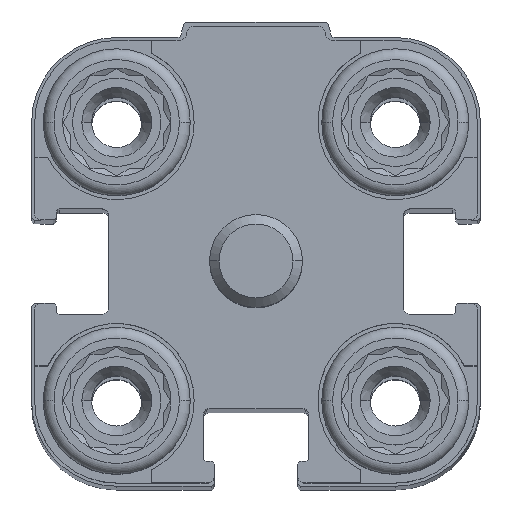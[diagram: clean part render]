
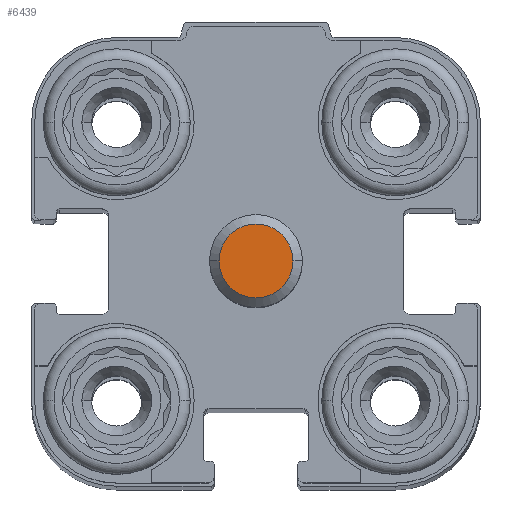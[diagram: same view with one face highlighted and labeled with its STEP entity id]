
A CAD part, top view. The second image highlights one B-rep face of the part: STEP entity #6439.
In plain terms, the highlighted planar face has unit normal (0, 0, 1).
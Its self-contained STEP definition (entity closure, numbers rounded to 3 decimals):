
#1631 = CARTESIAN_POINT ( 'NONE',  ( 0., 0., 20.5 ) ) ;
#1724 = DIRECTION ( 'NONE',  ( -1., 0., 0. ) ) ;
#1869 = AXIS2_PLACEMENT_3D ( 'NONE', #2050, #13002, #4146 ) ;
#2050 = CARTESIAN_POINT ( 'NONE',  ( 0., 0., 20.5 ) ) ;
#2973 = DIRECTION ( 'NONE',  ( 0., 0., -1. ) ) ;
#3640 = DIRECTION ( 'NONE',  ( 0., 0., -1. ) ) ;
#4146 = DIRECTION ( 'NONE',  ( 0., 1., 0. ) ) ;
#4384 = CARTESIAN_POINT ( 'NONE',  ( -2.387, 0., 20.5 ) ) ;
#4546 = ORIENTED_EDGE ( 'NONE', *, *, #8602, .F. ) ;
#4973 = CARTESIAN_POINT ( 'NONE',  ( 2.387, 0., 20.5 ) ) ;
#5176 = VERTEX_POINT ( 'NONE', #4384 ) ;
#5668 = PLANE ( 'NONE',  #1869 ) ;
#6439 = ADVANCED_FACE ( 'NONE', ( #10230 ), #5668, .F. ) ;
#6823 = AXIS2_PLACEMENT_3D ( 'NONE', #1631, #2973, #1724 ) ;
#8047 = EDGE_CURVE ( 'NONE', #5176, #13988, #12258, .T. ) ;
#8602 = EDGE_CURVE ( 'NONE', #13988, #5176, #11434, .T. ) ;
#10230 = FACE_OUTER_BOUND ( 'NONE', #15754, .T. ) ;
#10473 = CARTESIAN_POINT ( 'NONE',  ( 0., 0., 20.5 ) ) ;
#11124 = AXIS2_PLACEMENT_3D ( 'NONE', #10473, #3640, #11996 ) ;
#11434 = CIRCLE ( 'NONE', #11124, 2.387 ) ;
#11996 = DIRECTION ( 'NONE',  ( -1., 0., 0. ) ) ;
#12258 = CIRCLE ( 'NONE', #6823, 2.387 ) ;
#13002 = DIRECTION ( 'NONE',  ( 0., 0., -1. ) ) ;
#13988 = VERTEX_POINT ( 'NONE', #4973 ) ;
#15754 = EDGE_LOOP ( 'NONE', ( #16096, #4546 ) ) ;
#16096 = ORIENTED_EDGE ( 'NONE', *, *, #8047, .F. ) ;
